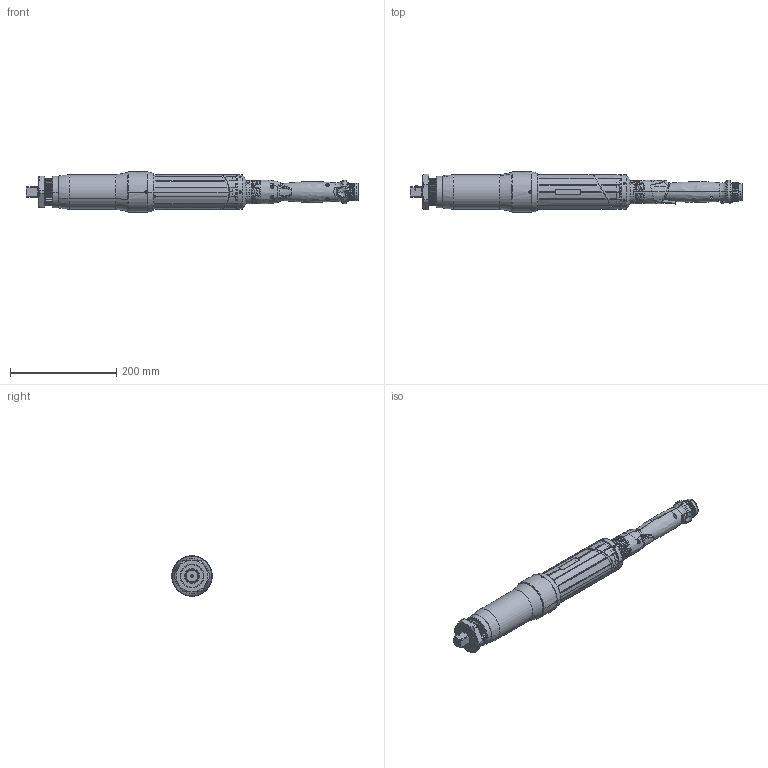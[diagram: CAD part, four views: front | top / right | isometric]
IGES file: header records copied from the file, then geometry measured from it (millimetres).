
Start section:  PTC IGES file: 6151656790.igs
Global section: file name: 6151656790.igs; native system: Creo Parametric by PTC Inc.; preprocessor: 2015380; author: greextsd; organization: Unknown; date: 20160308.134853; units: millimetre
Bounding box: 625.4 x 76 x 76 mm (x, y, z)
Volume: 431607 mm3; surface area: 263860.6 mm2
Topology: 9 solids, 9 shells, 2430 faces, 6285 edges, 3910 vertices
Faces by surface type: revolution 1311, bspline 1034, extrusion 85
